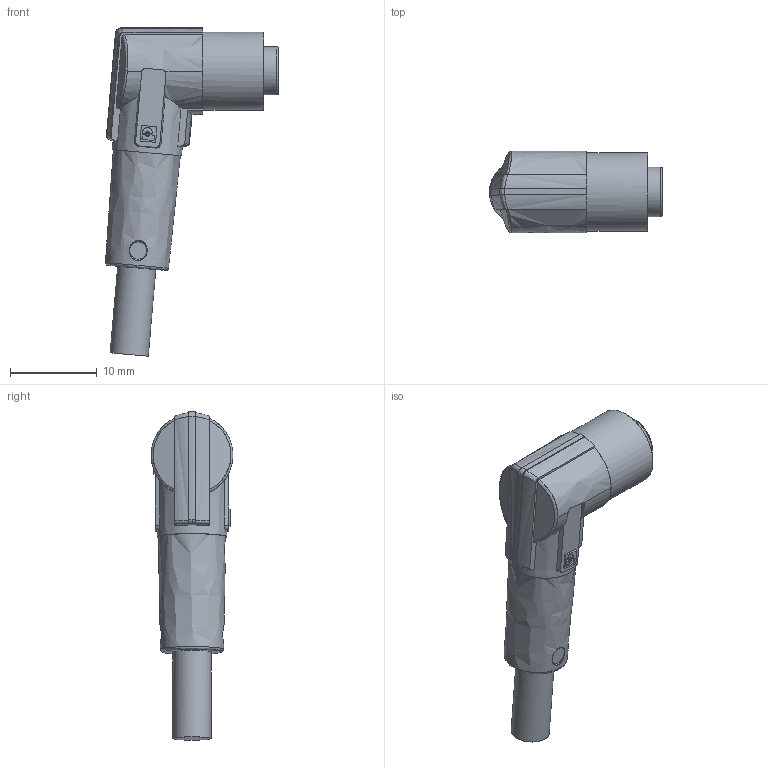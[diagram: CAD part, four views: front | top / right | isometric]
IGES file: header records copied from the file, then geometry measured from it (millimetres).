
Start section: C
Global section: file name: ESW 08 AH.igs; native system:  By UGS Corp.; preprocessor: XPlus GENERIC/IGES 3.0; author: Author; organization: Title; date: 20171101.134745; units: millimetre
Bounding box: 19.89 x 9.4 x 37.76 mm (x, y, z)
Surface area: 1456.5 mm2 (no closed solid volume)
Topology: 0 solids, 0 shells, 182 faces, 2526 edges, 2524 vertices
Faces by surface type: bspline 182
